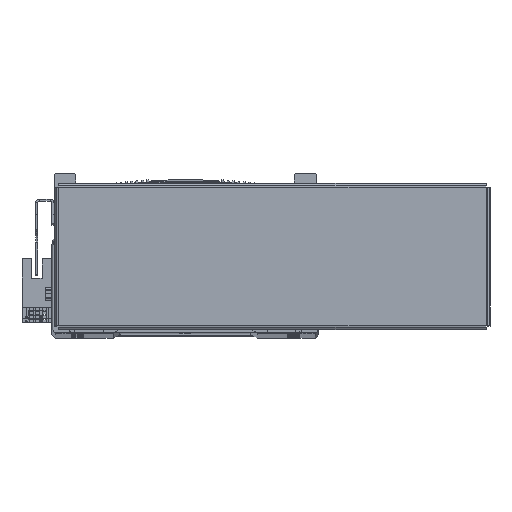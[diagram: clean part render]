
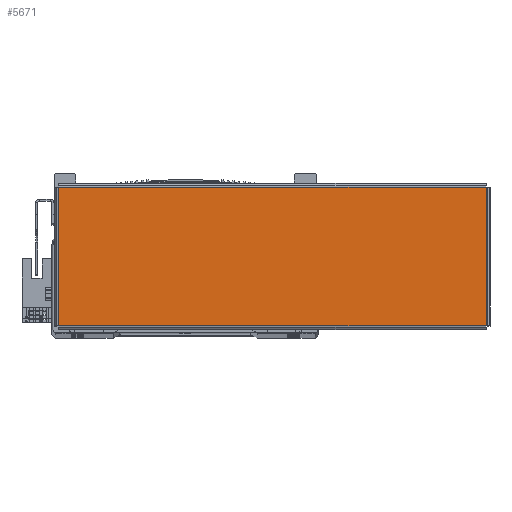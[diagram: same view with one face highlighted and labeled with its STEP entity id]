
A CAD part, top view. The second image highlights one B-rep face of the part: STEP entity #5671.
In plain terms, the highlighted planar face has unit normal (0, 0, 1) as drawn and (0, 0, -1) by its records, which use the part's own axes.
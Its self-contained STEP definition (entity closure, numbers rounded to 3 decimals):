
#1343 = EDGE_LOOP ( 'NONE', ( #59556, #93235, #59634, #93270 ) ) ;
#5587 = EDGE_CURVE ( 'NONE', #56430, #56391, #44301, .T. ) ;
#5606 = EDGE_CURVE ( 'NONE', #56208, #56271, #44403, .T. ) ;
#5625 = EDGE_CURVE ( 'NONE', #56271, #56430, #44362, .T. ) ;
#5659 = EDGE_CURVE ( 'NONE', #56391, #56208, #44426, .T. ) ;
#5671 = ADVANCED_FACE ( 'NONE', ( #44470 ), #62832, .F. ) ;
#26128 = CARTESIAN_POINT ( 'NONE',  ( -97.863, -31.763, -1. ) ) ;
#29355 = CARTESIAN_POINT ( 'NONE',  ( -97.863, 31.763, -1. ) ) ;
#29474 = CARTESIAN_POINT ( 'NONE',  ( 97.863, -31.763, -1. ) ) ;
#29657 = CARTESIAN_POINT ( 'NONE',  ( 97.863, 31.763, -1. ) ) ;
#37974 = AXIS2_PLACEMENT_3D ( 'NONE', #62916, #63240, #63481 ) ;
#44301 = LINE ( 'NONE', #63133, #44339 ) ;
#44339 = VECTOR ( 'NONE', #63169, 1000. ) ;
#44362 = LINE ( 'NONE', #63437, #44412 ) ;
#44382 = VECTOR ( 'NONE', #63255, 1000. ) ;
#44403 = LINE ( 'NONE', #63301, #44382 ) ;
#44412 = VECTOR ( 'NONE', #63420, 1000. ) ;
#44426 = LINE ( 'NONE', #63644, #44464 ) ;
#44464 = VECTOR ( 'NONE', #63686, 1000. ) ;
#44470 = FACE_OUTER_BOUND ( 'NONE', #1343, .T. ) ;
#56208 = VERTEX_POINT ( 'NONE', #26128 ) ;
#56271 = VERTEX_POINT ( 'NONE', #29355 ) ;
#56391 = VERTEX_POINT ( 'NONE', #29474 ) ;
#56430 = VERTEX_POINT ( 'NONE', #29657 ) ;
#59556 = ORIENTED_EDGE ( 'NONE', *, *, #5587, .T. ) ;
#59634 = ORIENTED_EDGE ( 'NONE', *, *, #5606, .T. ) ;
#62832 = PLANE ( 'NONE',  #37974 ) ;
#62916 = CARTESIAN_POINT ( 'NONE',  ( 0., 0., -1. ) ) ;
#63133 = CARTESIAN_POINT ( 'NONE',  ( 97.863, 31.793, -1. ) ) ;
#63169 = DIRECTION ( 'NONE',  ( 0., -1., 0. ) ) ;
#63240 = DIRECTION ( 'NONE',  ( 0., 0., 1. ) ) ;
#63255 = DIRECTION ( 'NONE',  ( 0., 1., 0. ) ) ;
#63301 = CARTESIAN_POINT ( 'NONE',  ( -97.863, -31.793, -1. ) ) ;
#63420 = DIRECTION ( 'NONE',  ( 1., 0., 0. ) ) ;
#63437 = CARTESIAN_POINT ( 'NONE',  ( -97.893, 31.763, -1. ) ) ;
#63481 = DIRECTION ( 'NONE',  ( 1., 0., 0. ) ) ;
#63644 = CARTESIAN_POINT ( 'NONE',  ( 97.893, -31.763, -1. ) ) ;
#63686 = DIRECTION ( 'NONE',  ( -1., 0., 0. ) ) ;
#93235 = ORIENTED_EDGE ( 'NONE', *, *, #5659, .T. ) ;
#93270 = ORIENTED_EDGE ( 'NONE', *, *, #5625, .T. ) ;
